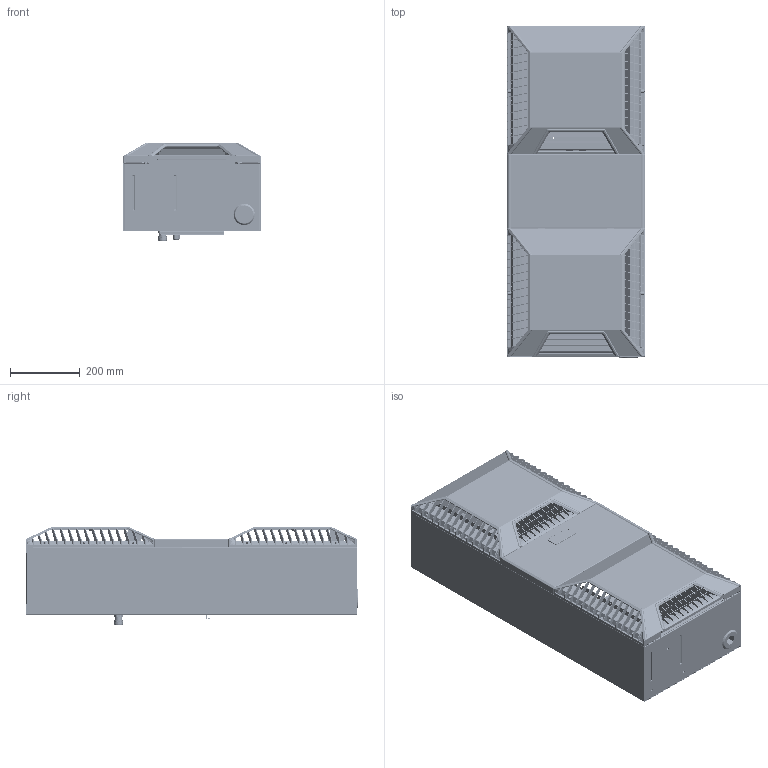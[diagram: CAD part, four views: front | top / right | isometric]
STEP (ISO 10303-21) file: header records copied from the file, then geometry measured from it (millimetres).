
FILE_DESCRIPTION((''),'2;1');
FILE_NAME('KG8412_COMPLETE_ASM_1_ASM','2019-12-17T10:54:55',('briang'),(''),'CREO PARAMETRIC BY PTC INC, 2018500','CREO PARAMETRIC BY PTC INC, 2018500','');
FILE_SCHEMA(('CONFIG_CONTROL_DESIGN'));
Products named in the file (37): KG8412_CABINET_1; KG8412_CABINET-MNF_ASM_1_ASM; KG8412_BASE_1; KG8412_BASE_ASM_1_ASM; KG8412_BOTTOM_STRUT_1; KG8412-STRAIN-RELEIF-BRKT_1; CABLE_GLAND_M20_METAL_1; CABLE_GLAND_M16_1; KG8412_ELEC_CONN_BRKT_ASM_1_ASM; POPNUT_M8_HEX_CLOSED_HEAD1-5_ST; POPNUT_M6_HEX_CL_WITH_LIP_1_5MM; KG8512-MOUNTING-BRACKET_1; KG8412_CABINET_ASM_1_ASM; CAREL_IR33PLUS_SEIFERT_1; CAREL_IR33_PLUS_SEIFERT_ASM_1_ASM; KG8412_CONTROLLER_ASM_1_ASM; KG8412_INT_ACCESS_PANEL_1; KG8412_INT_ACCESS_PANEL-MNF_ASM_ASM; KG8412_INT_ACCESS_PANEL_ASM_1_ASM; NG2-3-GRID-SIDE_1; NG2-3-GRID-SIDE-BOTTOM_1; NG2-3-GRID-SIDE-RIGHT_1; NG2-3-GRID-SIDE-BTM-RIGHT_1; KG8412-GRID-ASSEMBLY_ASM_1_ASM; NG3-FRONT-GRID_1; KG8412_COVER-TOP_1; KG8412-COVER-BRKT-L_1; KG8412-COVER-BRKT-L-MNF_ASM_1_ASM; KG8412-COVER-BRACKETS-R_1; KG8412-COVER-BRKT-R-MNF_ASM_1_ASM; KG8412_COVER-TOP_ASM_1_ASM; KG8412_COVER-BOTTOM_1; KG8412_COVER-BOTTOM_ASM_1_ASM; KG8412_MID-COVER_1; NG2_4-SIDE-STRIP_1; KG8412_MID-COVER_ASM_1_ASM; KG8412_COMPLETE_ASM_1_ASM
Assembly tree (59 placements, depth 4):
  KG8412_COMPLETE_ASM_1_ASM
    KG8412_CABINET_ASM_1_ASM
      KG8412_CABINET-MNF_ASM_1_ASM
        KG8412_CABINET_1
      KG8412_BASE_ASM_1_ASM
        KG8412_BASE_1
      KG8412_BOTTOM_STRUT_1
      KG8412_ELEC_CONN_BRKT_ASM_1_ASM
        KG8412-STRAIN-RELEIF-BRKT_1
        CABLE_GLAND_M20_METAL_1
        CABLE_GLAND_M16_1
      POPNUT_M8_HEX_CLOSED_HEAD1-5_ST
      POPNUT_M6_HEX_CL_WITH_LIP_1_5MM  x19
      KG8512-MOUNTING-BRACKET_1
    KG8412_CONTROLLER_ASM_1_ASM
      CAREL_IR33_PLUS_SEIFERT_ASM_1_ASM
        CAREL_IR33PLUS_SEIFERT_1
    KG8412_INT_ACCESS_PANEL_ASM_1_ASM
      KG8412_INT_ACCESS_PANEL-MNF_ASM_ASM
        KG8412_INT_ACCESS_PANEL_1
    KG8412_COVER-TOP_ASM_1_ASM
      KG8412-GRID-ASSEMBLY_ASM_1_ASM
        NG2-3-GRID-SIDE_1
        NG2-3-GRID-SIDE-BOTTOM_1
        NG2-3-GRID-SIDE-RIGHT_1
        NG2-3-GRID-SIDE-BTM-RIGHT_1
      NG3-FRONT-GRID_1
      KG8412_COVER-TOP_1
      KG8412-COVER-BRKT-L-MNF_ASM_1_ASM
        KG8412-COVER-BRKT-L_1
      KG8412-COVER-BRKT-R-MNF_ASM_1_ASM
        KG8412-COVER-BRACKETS-R_1
    KG8412_COVER-BOTTOM_ASM_1_ASM
      KG8412-GRID-ASSEMBLY_ASM_1_ASM
        NG2-3-GRID-SIDE_1
        NG2-3-GRID-SIDE-BOTTOM_1
        NG2-3-GRID-SIDE-RIGHT_1
        NG2-3-GRID-SIDE-BTM-RIGHT_1
      NG3-FRONT-GRID_1
      KG8412_COVER-BOTTOM_1
      KG8412-COVER-BRKT-L-MNF_ASM_1_ASM
        KG8412-COVER-BRKT-L_1
      KG8412-COVER-BRKT-R-MNF_ASM_1_ASM
        KG8412-COVER-BRACKETS-R_1
    KG8412_MID-COVER_ASM_1_ASM
      KG8412_MID-COVER_1
      NG2_4-SIDE-STRIP_1  x2
Bounding box: 395 x 954 x 284.25 mm (x, y, z)
Volume: 2314323.5 mm3; surface area: 3683988.7 mm2
Topology: 48 solids, 70 shells, 8732 faces, 25042 edges, 16187 vertices
Faces by surface type: plane 6001, cylinder 2227, cone 218, bspline 168, sphere 68, torus 48, extrusion 2
Entity records: 175230 total; most frequent: CARTESIAN_POINT 37379, ORIENTED_EDGE 29502, DIRECTION 27183, EDGE_CURVE 14753, VECTOR 10971, LINE 10969, VERTEX_POINT 9550, AXIS2_PLACEMENT_3D 8106
